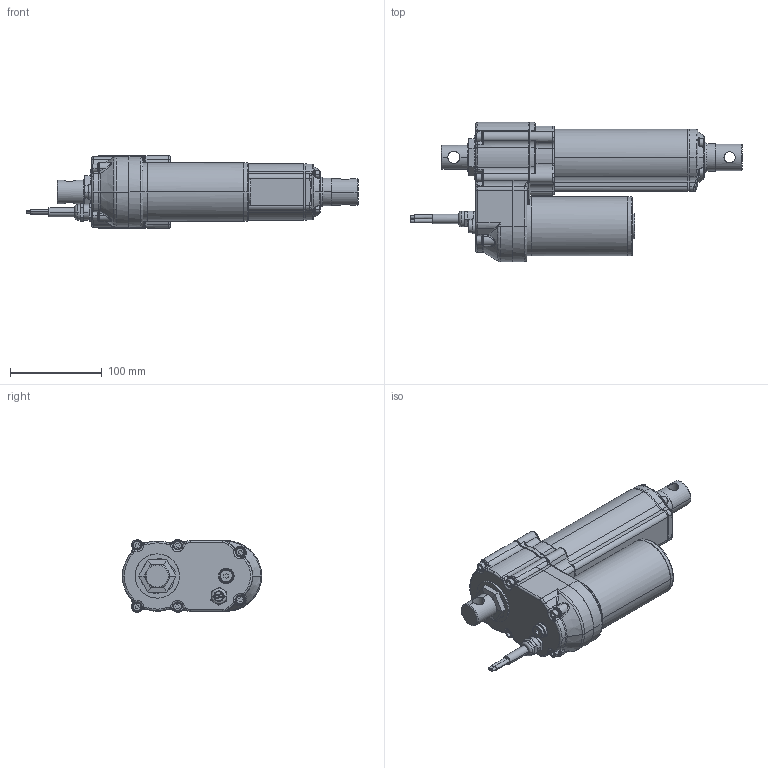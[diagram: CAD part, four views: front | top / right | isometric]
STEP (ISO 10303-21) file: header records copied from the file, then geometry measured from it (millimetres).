
FILE_DESCRIPTION(('STEP AP203'),'1');
FILE_NAME('LINACT-33P-100MM.stp','2025-11-20T12:25:55',('Linear Actuators S.A.'),('Linear Actuators South Africa (Pty) Ltd'),'Spatial InterOp 3D',' ',' ');
FILE_SCHEMA(('CONFIG_CONTROL_DESIGN'));
Length unit declared in the file: millimetre
Products named in the file (1): LINACT-33P
Bounding box: 361.27 x 151.4 x 79 mm (x, y, z)
Volume: 1663912.3 mm3; surface area: 121629.5 mm2
Topology: 1 solids, 1 shells, 940 faces, 2391 edges, 1467 vertices
Faces by surface type: torus 294, plane 239, cylinder 234, bspline 105, cone 66, sphere 2
Entity records: 41074 total; most frequent: CARTESIAN_POINT 19629, ORIENTED_EDGE 4728, DIRECTION 4260, EDGE_CURVE 2364, AXIS2_PLACEMENT_3D 1786, VERTEX_POINT 1467, EDGE_LOOP 985, CIRCLE 942
